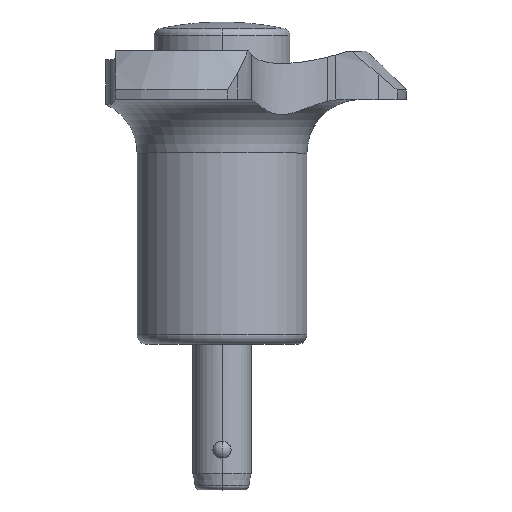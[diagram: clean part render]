
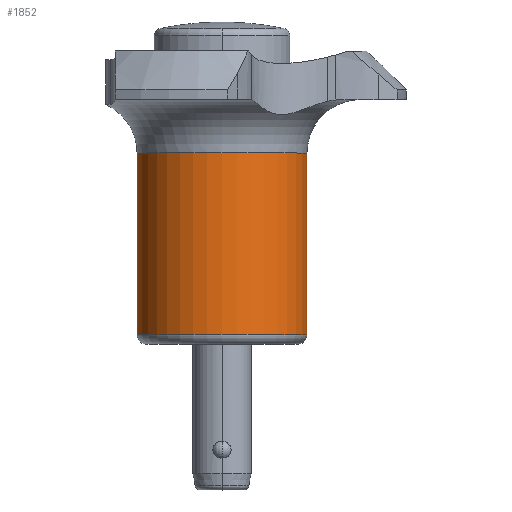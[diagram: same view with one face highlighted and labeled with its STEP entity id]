
A CAD part, top view. The second image highlights one B-rep face of the part: STEP entity #1852.
In plain terms, the highlighted cylindrical face has radius 8.75 mm (diameter 17.5 mm), a partial arc.
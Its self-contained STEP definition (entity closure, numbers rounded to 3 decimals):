
#10 = VERTEX_POINT ( 'NONE', #1709 ) ;
#90 = FACE_OUTER_BOUND ( 'NONE', #1473, .T. ) ;
#97 = DIRECTION ( 'NONE',  ( -1., 0., 0. ) ) ;
#254 = VERTEX_POINT ( 'NONE', #2156 ) ;
#299 = AXIS2_PLACEMENT_3D ( 'NONE', #1399, #2037, #97 ) ;
#361 = CYLINDRICAL_SURFACE ( 'NONE', #1398, 8.75 ) ;
#387 = EDGE_CURVE ( 'NONE', #254, #10, #960, .T. ) ;
#450 = CARTESIAN_POINT ( 'NONE',  ( -8.75, 30.2, 0. ) ) ;
#456 = EDGE_CURVE ( 'NONE', #1890, #10, #2054, .T. ) ;
#485 = VECTOR ( 'NONE', #1785, 1000. ) ;
#504 = CARTESIAN_POINT ( 'NONE',  ( 8.75, 30.2, 0. ) ) ;
#583 = ORIENTED_EDGE ( 'NONE', *, *, #2371, .T. ) ;
#757 = DIRECTION ( 'NONE',  ( 0., 1., 0. ) ) ;
#937 = CARTESIAN_POINT ( 'NONE',  ( -8.75, 1., 0. ) ) ;
#960 = LINE ( 'NONE', #504, #1967 ) ;
#1208 = ORIENTED_EDGE ( 'NONE', *, *, #456, .F. ) ;
#1398 = AXIS2_PLACEMENT_3D ( 'NONE', #2241, #757, #1623 ) ;
#1399 = CARTESIAN_POINT ( 'NONE',  ( 0., 19.7, 0. ) ) ;
#1421 = DIRECTION ( 'NONE',  ( 0., 1., 0. ) ) ;
#1424 = CARTESIAN_POINT ( 'NONE',  ( -8.75, 19.7, 0. ) ) ;
#1473 = EDGE_LOOP ( 'NONE', ( #583, #2328, #1208, #1808 ) ) ;
#1623 = DIRECTION ( 'NONE',  ( -1., 0., 0. ) ) ;
#1709 = CARTESIAN_POINT ( 'NONE',  ( 8.75, 19.7, 0. ) ) ;
#1734 = EDGE_CURVE ( 'NONE', #2347, #1890, #1744, .T. ) ;
#1744 = LINE ( 'NONE', #450, #485 ) ;
#1785 = DIRECTION ( 'NONE',  ( 0., 1., 0. ) ) ;
#1808 = ORIENTED_EDGE ( 'NONE', *, *, #1734, .F. ) ;
#1852 = ADVANCED_FACE ( 'NONE', ( #90 ), #361, .T. ) ;
#1890 = VERTEX_POINT ( 'NONE', #1424 ) ;
#1967 = VECTOR ( 'NONE', #1421, 1000. ) ;
#2037 = DIRECTION ( 'NONE',  ( 0., 1., 0. ) ) ;
#2054 = CIRCLE ( 'NONE', #299, 8.75 ) ;
#2156 = CARTESIAN_POINT ( 'NONE',  ( 8.75, 1., 0. ) ) ;
#2241 = CARTESIAN_POINT ( 'NONE',  ( 0., 30.2, 0. ) ) ;
#2249 = CIRCLE ( 'NONE', #2294, 8.75 ) ;
#2294 = AXIS2_PLACEMENT_3D ( 'NONE', #2424, #2617, #2410 ) ;
#2328 = ORIENTED_EDGE ( 'NONE', *, *, #387, .T. ) ;
#2347 = VERTEX_POINT ( 'NONE', #937 ) ;
#2371 = EDGE_CURVE ( 'NONE', #2347, #254, #2249, .T. ) ;
#2410 = DIRECTION ( 'NONE',  ( 1., 0., 0. ) ) ;
#2424 = CARTESIAN_POINT ( 'NONE',  ( 0., 1., 0. ) ) ;
#2617 = DIRECTION ( 'NONE',  ( 0., 1., 0. ) ) ;
